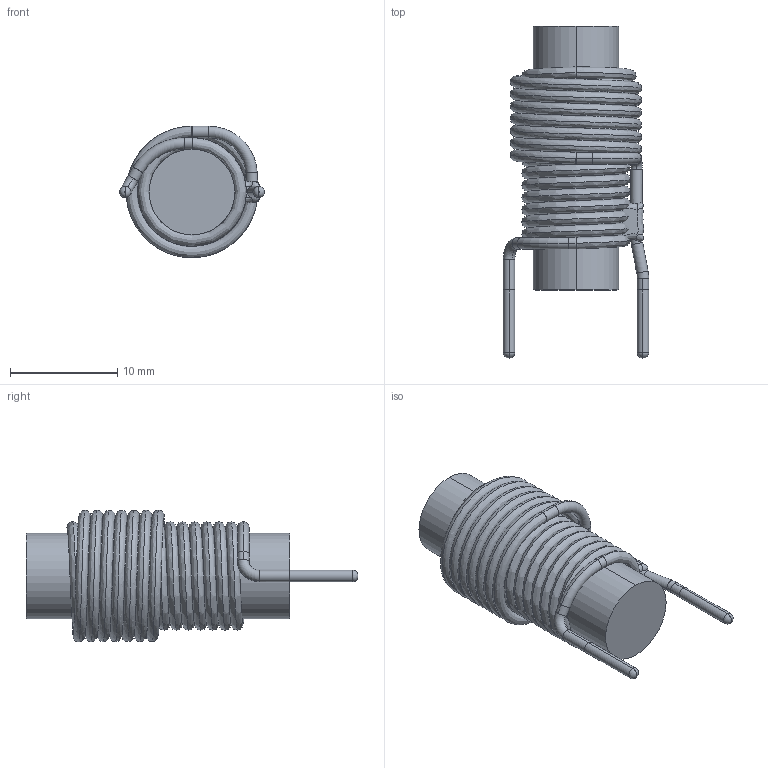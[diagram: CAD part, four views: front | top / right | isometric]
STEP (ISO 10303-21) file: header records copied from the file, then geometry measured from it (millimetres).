
FILE_DESCRIPTION (( 'STEP AP203' ), '1' );
FILE_NAME ('PV-273-05.STEP', '2020-10-01T14:08:11', ( 'Windows User' ), ( '' ), 'SwSTEP 2.0', 'SolidWorks 2015', '' );
FILE_SCHEMA (( 'CONFIG_CONTROL_DESIGN' ));
Length unit declared in the file: millimetre
Products named in the file (1): PV-273-05
Bounding box: 13.57 x 30.99 x 12.28 mm (x, y, z)
Volume: 1873.9 mm3; surface area: 3085.4 mm2
Topology: 9 solids, 9 shells, 74 faces, 150 edges, 90 vertices
Faces by surface type: cylinder 22, plane 19, bspline 17, torus 16
Entity records: 11735 total; most frequent: CARTESIAN_POINT 10216, DIRECTION 306, ORIENTED_EDGE 292, EDGE_CURVE 146, AXIS2_PLACEMENT_3D 140, VERTEX_POINT 90, CIRCLE 82, FACE_OUTER_BOUND 74
